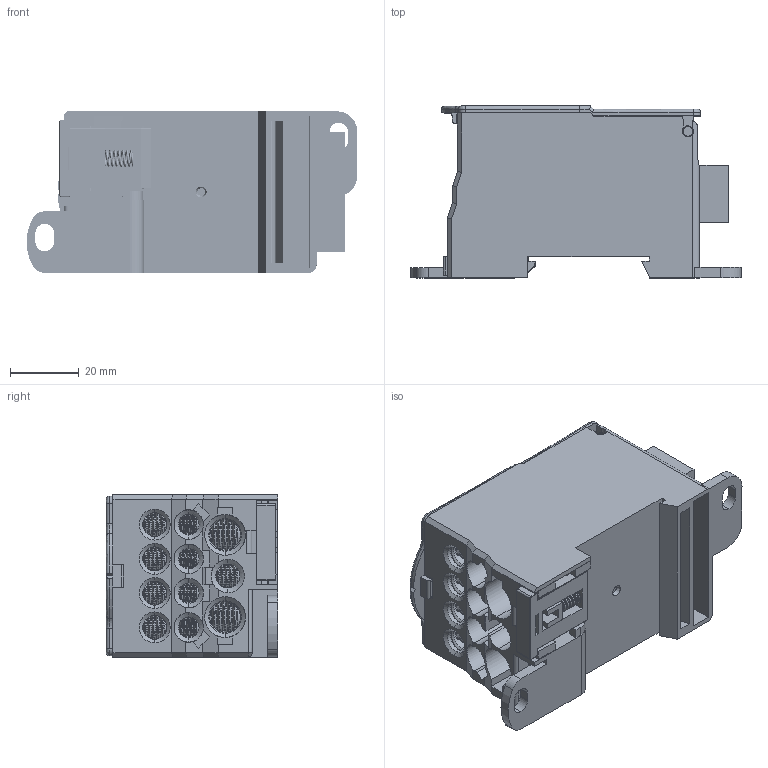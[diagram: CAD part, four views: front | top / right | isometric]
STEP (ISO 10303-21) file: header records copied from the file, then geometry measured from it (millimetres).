
FILE_DESCRIPTION (( 'STEP AP214' ), '1' );
FILE_NAME ('500A..STEP', '2021-01-17T05:23:50', ( '微软用户' ), ( '微软中国' ), 'SwSTEP 2.0', 'SolidWorks 2008', '' );
FILE_SCHEMA (( 'AUTOMOTIVE_DESIGN' ));
Length unit declared in the file: millimetre
Products named in the file (1): 500A.
Bounding box: 96.45 x 50.1 x 47.3 mm (x, y, z)
Volume: 92847.6 mm3; surface area: 70886.4 mm2
Topology: 18 solids, 18 shells, 2224 faces, 6163 edges, 4028 vertices
Faces by surface type: cylinder 1012, bspline 591, plane 495, cone 126
Entity records: 190198 total; most frequent: CARTESIAN_POINT 142232, ORIENTED_EDGE 12288, DIRECTION 6252, EDGE_CURVE 6144, VERTEX_POINT 4028, B_SPLINE_CURVE_WITH_KNOTS 3542, EDGE_LOOP 2354, FACE_OUTER_BOUND 2224
